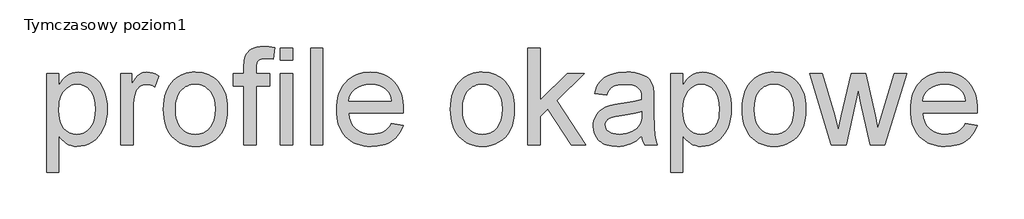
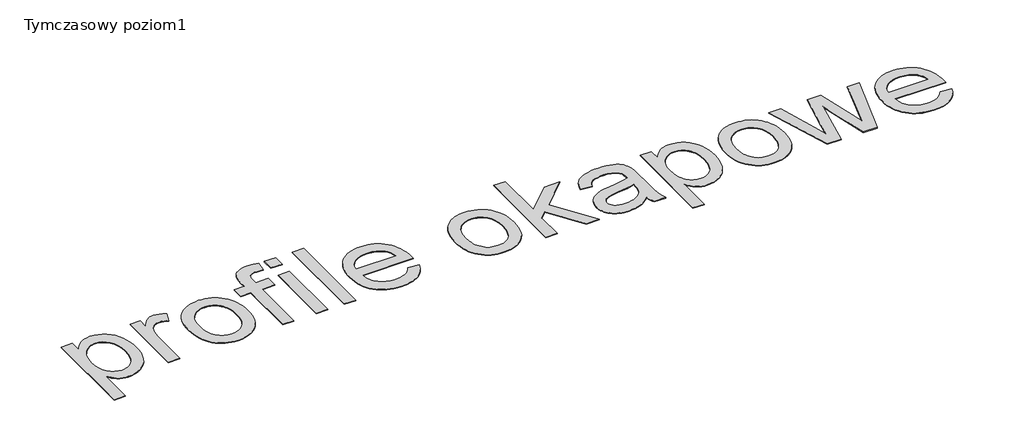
# One storey, part 3 of 4: 1 proxy.
"""IFC4 building model written with IfcOpenShell, lengths in millimetres."""

import ifcopenshell
import ifcopenshell.guid

model = None  # the IFC model being written
_history = None  # IfcOwnerHistory: only IFC2X3 demands one
_inside = {}  # id of a spatial element -> (the spatial element, [elements in it])
_under = {}  # id of a project, library or spatial element -> (it, [spatial elements below it])
_declared = {}  # id of a project -> (the project, [libraries it declares])
_typed = {}  # id of a type object -> (the type object, [elements of that type])
_made_of = {}  # id of a material, layer set ... -> (it, [elements and type objects made of it])


def new_model(schema):
    """Start an empty IFC model of exactly this schema.

    Asked for "IFC4X3", IfcOpenShell would pick the latest addendum, in which some entities
    have other attributes; the version numbers below select the first issue.
    IFC2X3 requires an IfcOwnerHistory on every rooted entity: one is made here for all.
    """
    global model, _history
    if schema == "IFC4X3":
        model = ifcopenshell.file(schema_version=(4, 3, 0, 0))
    else:
        model = ifcopenshell.file(schema=schema)
    _inside.clear()
    _under.clear()
    _declared.clear()
    _typed.clear()
    _made_of.clear()
    _history = None
    if model.schema == "IFC2X3":
        org = make("IfcOrganization", Name="unknown")
        user = make(
            "IfcPersonAndOrganization",
            ThePerson=make("IfcPerson", FamilyName="unknown"),
            TheOrganization=org,
        )
        app = make(
            "IfcApplication",
            ApplicationDeveloper=org,
            Version="unknown",
            ApplicationFullName="unknown",
            ApplicationIdentifier="unknown",
        )
        _history = make(
            "IfcOwnerHistory",
            OwningUser=user,
            OwningApplication=app,
            ChangeAction="ADDED",
            CreationDate=0,
        )
    return model


def make(cls, **values):
    """One entity of the class cls with the attributes given. An attribute that is None is left unset."""
    return model.create_entity(
        cls, **{name: value for name, value in values.items() if value is not None}
    )


def rooted(cls, **values):
    """An entity with a GlobalId (a new one), such as an element, a storey or a relation."""
    return make(cls, GlobalId=ifcopenshell.guid.new(), OwnerHistory=_history, **values)


def si_unit(unit_type, name, prefix=None):
    """IfcSIUnit, for example si_unit("LENGTHUNIT", "METRE", prefix="MILLI")."""
    return make("IfcSIUnit", UnitType=unit_type, Prefix=prefix, Name=name)


def assignment(units):
    """IfcUnitAssignment: the units of a project."""
    return None if units is None else make("IfcUnitAssignment", Units=units)


def point(xyz):
    """IfcCartesianPoint."""
    return None if xyz is None else make("IfcCartesianPoint", Coordinates=xyz)


def direction(xyz):
    """IfcDirection."""
    return None if xyz is None else make("IfcDirection", DirectionRatios=xyz)


def frame(location, z_axis=None, x_axis=None):
    """IfcAxis2Placement3D, a coordinate frame: its origin and axes. An axis left out is left unset."""
    return make(
        "IfcAxis2Placement3D",
        Location=point(location),
        Axis=direction(z_axis),
        RefDirection=direction(x_axis),
    )


def origin():
    """The frame at (0, 0, 0) with its axes left unset."""
    return frame((0.0, 0.0, 0.0))


def origin_with_axes():
    """The frame at (0, 0, 0) with the z axis (0, 0, 1) and the x axis (1, 0, 0) written out."""
    return frame((0.0, 0.0, 0.0), z_axis=(0.0, 0.0, 1.0), x_axis=(1.0, 0.0, 0.0))


def place(relative_to, where):
    """IfcLocalPlacement: puts the frame where relative to a parent placement (None: the world)."""
    return make(
        "IfcLocalPlacement", PlacementRelTo=relative_to, RelativePlacement=where
    )


def context(
    kind, dimensions, precision=None, world=None, true_north=None, identifier=None
):
    """IfcGeometricRepresentationContext, for example the 3D "Model" context."""
    return make(
        "IfcGeometricRepresentationContext",
        ContextIdentifier=identifier,
        ContextType=kind,
        CoordinateSpaceDimension=dimensions,
        Precision=precision,
        WorldCoordinateSystem=world,
        TrueNorth=true_north,
    )


def project(units=None, contexts=None):
    """IfcProject with its units and contexts."""
    return rooted(
        "IfcProject",
        Name="project",
        RepresentationContexts=contexts,
        UnitsInContext=assignment(units),
    )


def spatial(cls, under=None, at=None, **own):
    """A site, building, storey or space (cls), placed at a placement, below another one or the project."""
    s = rooted(cls, ObjectPlacement=at, **own)
    if under is not None:
        _under.setdefault(under.id(), (under, []))[1].append(s)
    return s


def polyline(points):
    """IfcPolyline through the points."""
    return make("IfcPolyline", Points=[point(p) for p in points])


def outline(outer, holes=None, kind="AREA"):
    """IfcArbitraryClosedProfileDef: a profile drawn as a closed curve; with holes, ...WithVoids."""
    if holes is None:
        return make("IfcArbitraryClosedProfileDef", ProfileType=kind, OuterCurve=outer)
    return make(
        "IfcArbitraryProfileDefWithVoids",
        ProfileType=kind,
        OuterCurve=outer,
        InnerCurves=holes,
    )


def extrude(swept, where, along, depth):
    """IfcExtrudedAreaSolid: the profile swept, set in the frame where, extruded along a direction by depth."""
    return make(
        "IfcExtrudedAreaSolid",
        SweptArea=swept,
        Position=where,
        ExtrudedDirection=direction(along),
        Depth=depth,
    )


def shape(context_of_items, identifier, shape_type, items):
    """IfcShapeRepresentation: the items that make up one representation, for example the "Body"."""
    return make(
        "IfcShapeRepresentation",
        ContextOfItems=context_of_items,
        RepresentationIdentifier=identifier,
        RepresentationType=shape_type,
        Items=items,
    )


def made_of(thing, what):
    """Note that an element or type object is made of a material, layer set ...; save() writes the relation."""
    if what is not None:
        _made_of.setdefault(what.id(), (what, []))[1].append(thing)
    return thing


def element(
    cls,
    number,
    at=None,
    inside=None,
    cuts=None,
    type_object=None,
    material=None,
    context=None,
    identifier="Body",
    shape_type=None,
    held_by="IfcProductDefinitionShape",
    body=None,
    shapes=None,
    **own,
):
    """One element of the class cls, such as IfcWall. Its Tag is "e" and its number.

    at: its placement. inside: the storey or other place that contains it. cuts: it is an
    opening in that element (IfcRelVoidsElement). A single representation is given by context,
    identifier, shape_type and body (its items); several are given by shapes. held_by: the class
    of the entity that holds the representations. save() writes the other relations.
    """
    e = rooted(cls, Tag="e%d" % number, ObjectPlacement=at, **own)
    if body is not None:
        shapes = [shape(context, identifier, shape_type, body)]
    if shapes is not None:
        e.Representation = make(held_by, Representations=shapes)
    if inside is not None:
        _inside.setdefault(inside.id(), (inside, []))[1].append(e)
    if cuts is not None:
        rooted(
            "IfcRelVoidsElement", RelatingBuildingElement=cuts, RelatedOpeningElement=e
        )
    if type_object is not None:
        _typed.setdefault(type_object.id(), (type_object, []))[1].append(e)
    return made_of(e, material)


def aggregate(whole, parts):
    """IfcRelAggregates: a whole, such as a stair, and the parts it consists of."""
    return rooted("IfcRelAggregates", RelatingObject=whole, RelatedObjects=parts)


def save(model, path):
    """Write the relations noted so far, then the file.

    IfcRelAggregates (storeys below a building ...), IfcRelContainedInSpatialStructure (elements
    in a storey), IfcRelDefinesByType, IfcRelAssociatesMaterial and IfcRelDeclares: one each for
    every whole, place, type object, material and project.
    """
    for whole, parts in _under.values():
        aggregate(whole, parts)
    for where, things in _inside.values():
        rooted(
            "IfcRelContainedInSpatialStructure",
            RelatedElements=things,
            RelatingStructure=where,
        )
    for kind, things in _typed.values():
        rooted("IfcRelDefinesByType", RelatedObjects=things, RelatingType=kind)
    for what, things in _made_of.values():
        rooted("IfcRelAssociatesMaterial", RelatedObjects=things, RelatingMaterial=what)
    for by, libraries in _declared.values():
        rooted("IfcRelDeclares", RelatingContext=by, RelatedDefinitions=libraries)
    model.write(path)


model = new_model("IFC4")

# Units and contexts
model_context = context("Model", 3, world=origin())
ifc_project = project(units=[si_unit("LENGTHUNIT", "METRE", prefix="MILLI")], contexts=[model_context])

# Site, building, storey
site = spatial("IfcSite", under=ifc_project)
building = spatial("IfcBuilding", under=site)
storey = spatial("IfcBuildingStorey", under=building, Name="Tymczasowy poziom1", Elevation=0.0)

# Proxy
placement = place(None, origin())
element("IfcBuildingElementProxy", 1, Name="1500 mm Arial", ObjectType="1500 mm Arial", at=placement, inside=storey, context=model_context, shape_type="SweptSolid", body=[
    extrude(outline(polyline([(-114702.1836112, 53004.2543182), (-114702.1836112, 54534.6434182), (-114513.8280296, 54534.6434182), (-114513.8280296, 54349.9666566), (-114484.029588, 54398.7685025), (-114452.3917364, 54441.0634356), (-114418.9144749, 54476.851456), (-114383.5978033, 54506.1325635), (-114345.4300463, 54528.9067583), (-114303.3995284, 54545.1740403), (-114257.5062495, 54554.9344095), (-114207.7502096, 54558.1878659), (-114142.0602809, 54553.6353262), (-114080.3710688, 54539.9777071), (-114022.6825734, 54517.2150087), (-113968.9947948, 54485.3472308), (-113920.4803567, 54445.2021081), (-113878.311883, 54397.607375), (-113842.4893737, 54342.5630314), (-113813.0128288, 54280.0690775), (-113789.9972115, 54212.2638273), (-113773.5574848, 54141.2855948), (-113763.6936488, 54067.1343802), (-113760.4057035, 53989.8101833), (-113764.1190124, 53907.1402012), (-113775.2589391, 53828.7238547), (-113793.8254835, 53754.5611437), (-113819.8186457, 53684.6520683), (-113852.88204, 53620.8245422), (-113892.6592808, 53564.9064789), (-113939.1503679, 53516.8978785), (-113992.3553015, 53476.798741), (-114049.6644185, 53445.1723858), (-114108.4680562, 53422.582132), (-114168.7662145, 53409.0279797), (-114230.5588933, 53404.509929), (-114275.0151332, 53407.5334591), (-114317.149118, 53416.6040496), (-114356.9608476, 53431.7217003), (-114394.4503222, 53452.8864114), (-114429.1576892, 53478.67264), (-114460.6230961, 53507.6548434), (-114488.8465429, 53539.8330217), (-114513.8280296, 53575.2071748), (-114513.8280296, 53004.2543182), (-114702.1836112, 53004.2543182)]), holes=[polyline([(-114513.8280296, 53972.5197295), (-114508.7351633, 53881.7448472), (-114493.4565641, 53803.6618938), (-114481.9976148, 53769.3798903), (-114467.9922323, 53738.2708691), (-114451.4404166, 53710.3348301), (-114432.3421677, 53685.5717733), (-114389.4264337, 53645.0127833), (-114342.1650936, 53616.0420762), (-114290.5581475, 53598.6596519), (-114234.6055953, 53592.8655105), (-114177.8483012, 53598.8665856), (-114151.047523, 53606.3679294), (-114125.2986575, 53616.8698107), (-114076.956664, 53646.8751859), (-114032.8223209, 53688.8827113), (-114013.1205156, 53714.5367323), (-113996.0456177, 53743.4901949), (-113981.5976272, 53775.7430992), (-113969.776544, 53811.2954452), (-113960.5823682, 53850.1472327), (-113954.0150998, 53892.298462), (-113948.761285, 53986.4992454), (-113953.8886403, 54076.4923784), (-113969.2707063, 54154.4373762), (-113980.8072557, 54188.8918243), (-113994.9074828, 54220.3342385), (-114011.5713876, 54248.764619), (-114030.79897, 54274.1829656), (-114073.8181708, 54316.0295425), (-114120.8380883, 54345.9199546), (-114171.8587225, 54363.8542019), (-114226.8800734, 54369.8322843), (-114254.7097715, 54368.2429192), (-114281.7289796, 54363.4748236), (-114307.9376977, 54355.5279977), (-114333.3359257, 54344.4024414), (-114381.7009118, 54312.6151378), (-114426.8239378, 54268.1129127), (-114447.2155218, 54241.2431566), (-114464.888228, 54211.4935743), (-114479.8420562, 54178.8641658), (-114492.0770067, 54143.3549311), (-114501.5930792, 54104.96587), (-114508.3902739, 54063.6969828), (-114513.8280296, 53972.5197295)])]), origin_with_axes(), (0.0, 0.0, 1.0), 10.0),
    extrude(outline(polyline([(-113548.5056743, 53428.0543767), (-113548.5056743, 54534.6434182), (-113383.6945404, 54534.6434182), (-113383.6945404, 54370.9359303), (-113352.6544971, 54423.2671441), (-113322.8100702, 54465.8494851), (-113294.1612599, 54498.6829531), (-113266.708066, 54521.7675483), (-113239.2088868, 54537.7014373), (-113210.4221207, 54549.0827865), (-113180.3477676, 54555.911596), (-113148.9858275, 54558.1878659), (-113102.2648141, 54554.5550312), (-113055.1759187, 54543.6565271), (-113007.7191414, 54525.4923535), (-112959.894482, 54500.0625106), (-113022.8023032, 54331.2046748), (-113055.9116827, 54348.104254), (-113089.0210623, 54360.175382), (-113122.1304419, 54367.4180587), (-113155.2398214, 54369.8322843), (-113184.1070617, 54367.5100292), (-113211.4797814, 54360.543264), (-113237.3579805, 54348.9319885), (-113261.741659, 54332.6762028), (-113283.7111119, 54312.3047373), (-113302.3466343, 54288.3464224), (-113317.648226, 54260.801258), (-113329.6158871, 54229.6692442), (-113342.9746021, 54178.2577353), (-113352.5165413, 54124.4549936), (-113358.2417049, 54068.2610188), (-113360.1500927, 54009.6758111), (-113360.1500927, 53428.0543767), (-113548.5056743, 53428.0543767)])), origin_with_axes(), (0.0, 0.0, 1.0), 10.0),
    extrude(outline(polyline([(-112889.2611389, 53981.3488974), (-112886.7147057, 54055.4828676), (-112879.0754062, 54124.6619272), (-112866.3432403, 54188.8860761), (-112848.518208, 54248.1553144), (-112825.6003093, 54302.4696421), (-112797.5895442, 54351.8290592), (-112764.4859128, 54396.2335656), (-112726.2894151, 54435.6831615), (-112691.3291292, 54464.3952016), (-112654.5064407, 54489.2789696), (-112615.8213497, 54510.3344657), (-112575.273856, 54527.5616898), (-112532.8639598, 54540.9606418), (-112488.5916609, 54550.5313218), (-112442.4569595, 54556.2737299), (-112394.4598554, 54558.1878659), (-112341.2577959, 54555.8569885), (-112290.5446881, 54548.8643565), (-112242.3205319, 54537.2099699), (-112196.5853273, 54520.8938286), (-112153.3390743, 54499.9159326), (-112112.5817729, 54474.276282), (-112074.3134232, 54443.9748768), (-112038.5340251, 54409.0117168), (-112006.1575354, 54369.9386252), (-111978.0979111, 54327.307425), (-111954.355152, 54281.118116), (-111934.9292582, 54231.3706984), (-111919.8202297, 54178.0651721), (-111909.0280665, 54121.2015372), (-111902.5527685, 54060.7797935), (-111900.3943359, 53996.7999412), (-111904.2111116, 53895.9772819), (-111915.6614387, 53806.5129792), (-111934.7453172, 53728.4070331), (-111961.4627471, 53661.6594436), (-111995.4803353, 53604.0054372), (-112036.4646889, 53553.1802403), (-112084.4158077, 53509.1838529), (-112139.3336918, 53472.0162751), (-112199.080027, 53442.4822487), (-112261.5164994, 53421.3865155), (-112326.6431089, 53408.7290756), (-112394.4598554, 53404.509929), (-112448.5011457, 53406.8321841), (-112499.892536, 53413.7989494), (-112548.6340262, 53425.4102248), (-112594.7256165, 53441.6660105), (-112638.1673068, 53462.5663064), (-112678.9590971, 53488.1111124), (-112717.1009874, 53518.3004286), (-112752.5929777, 53553.134255), (-112784.624578, 53592.3366802), (-112812.3852982, 53635.6317925), (-112835.8751384, 53683.019592), (-112855.0940986, 53734.5000787), (-112870.0421788, 53790.0732526), (-112880.7193788, 53849.7391137), (-112887.1256989, 53913.4976619), (-112889.2611389, 53981.3488974)]), holes=[polyline([(-112700.9055574, 53981.7167794), (-112695.4563053, 53890.3555852), (-112688.6447403, 53849.2706389), (-112679.1085492, 53811.2494599), (-112666.8477321, 53776.2920481), (-112651.8622889, 53744.3984036), (-112634.1522197, 53715.5685263), (-112613.7175245, 53689.8024162), (-112591.2192413, 53667.082829), (-112567.3184079, 53647.39252), (-112542.0150244, 53630.7314893), (-112515.3090908, 53617.099737), (-112487.2006071, 53606.4972629), (-112457.6895733, 53598.9240671), (-112394.4598554, 53592.8655105), (-112331.5520342, 53598.9585561), (-112302.1674599, 53606.574863), (-112274.162443, 53617.2376927), (-112247.5369836, 53630.9470452), (-112222.2910817, 53647.7029204), (-112198.4247372, 53667.5053184), (-112175.9379503, 53690.3542392), (-112155.5032551, 53716.3244088), (-112137.7931859, 53745.4905533), (-112122.8077428, 53777.8526725), (-112110.5469256, 53813.4107666), (-112101.0107345, 53852.1648356), (-112094.1991695, 53894.1148793), (-112088.7499174, 53987.6028913), (-112094.2336584, 54076.0670149), (-112101.0883346, 54116.0138262), (-112110.6848814, 54153.1038039), (-112123.0232986, 54187.336948), (-112138.1035863, 54218.7132585), (-112155.9257446, 54247.2327354), (-112176.4897733, 54272.8953786), (-112223.0153493, 54315.3052749), (-112248.2698735, 54331.9663055), (-112274.8522217, 54345.5980579), (-112302.762394, 54356.200532), (-112332.0003904, 54363.7737277), (-112394.4598554, 54369.8322843), (-112457.6895733, 54363.7967203), (-112487.2006071, 54356.2522654), (-112515.3090908, 54345.6900284), (-112542.0150244, 54332.1100094), (-112567.3184079, 54315.5122085), (-112591.2192413, 54295.8966255), (-112613.7175245, 54273.2632606), (-112634.1522197, 54247.5833729), (-112651.8622889, 54218.8282216), (-112666.8477321, 54186.9978068), (-112679.1085492, 54152.0921284), (-112688.6447403, 54114.1111865), (-112695.4563053, 54073.054981), (-112700.9055574, 53981.7167794)])]), origin_with_axes(), (0.0, 0.0, 1.0), 10.0),
    extrude(outline(polyline([(-111641.4054113, 53428.0543767), (-111641.4054113, 54346.2878366), (-111806.2165451, 54346.2878366), (-111806.2165451, 54534.6434182), (-111641.4054113, 54534.6434182), (-111641.4054113, 54646.1116627), (-111636.4390043, 54738.358073), (-111630.2309957, 54774.2035749), (-111621.5397835, 54803.1972747), (-111605.1690348, 54836.1457058), (-111583.647938, 54865.8291843), (-111556.9764934, 54892.2477101), (-111525.1547008, 54915.4012832), (-111487.4927815, 54934.2322428), (-111443.3009569, 54947.6829283), (-111392.5792268, 54955.7533395), (-111335.3275913, 54958.4434766), (-111253.5658179, 54953.2931287), (-111163.5266995, 54937.8420849), (-111191.1178492, 54761.2587272), (-111246.943942, 54767.8806031), (-111299.6430378, 54770.0878951), (-111338.5120698, 54768.133522), (-111371.2420711, 54762.2704027), (-111397.8330415, 54752.4985372), (-111418.2849812, 54738.8179255), (-111433.4946024, 54719.8030249), (-111444.3586176, 54694.0282926), (-111450.8770267, 54661.4937286), (-111453.0498298, 54622.199333), (-111453.0498298, 54534.6434182), (-111241.1498005, 54534.6434182), (-111241.1498005, 54346.2878366), (-111453.0498298, 54346.2878366), (-111453.0498298, 53428.0543767), (-111641.4054113, 53428.0543767)])), origin_with_axes(), (0.0, 0.0, 1.0), 10.0),
    extrude(outline(polyline([(-111076.3386667, 53428.0543767), (-111076.3386667, 54534.6434182), (-110887.9830852, 54534.6434182), (-110887.9830852, 53428.0543767), (-111076.3386667, 53428.0543767)])), origin_with_axes(), (0.0, 0.0, 1.0), 10.0),
    extrude(outline(polyline([(-111076.3386667, 54746.5434474), (-111076.3386667, 54934.8990289), (-110887.9830852, 54934.8990289), (-110887.9830852, 54746.5434474), (-111076.3386667, 54746.5434474)])), origin_with_axes(), (0.0, 0.0, 1.0), 10.0),
    extrude(outline(polyline([(-110605.4497129, 53428.0543767), (-110605.4497129, 54934.8990289), (-110417.0941313, 54934.8990289), (-110417.0941313, 53428.0543767), (-110605.4497129, 53428.0543767)])), origin_with_axes(), (0.0, 0.0, 1.0), 10.0),
    extrude(outline(polyline([(-109359.8012772, 53757.6766444), (-109175.1245156, 53734.1321967), (-109203.4399329, 53660.164923), (-109221.3138246, 53626.4749797), (-109241.6651715, 53594.980832), (-109264.4939737, 53565.68248), (-109289.8002313, 53538.5799236), (-109317.5839442, 53513.6731629), (-109347.8451124, 53490.9621979), (-109380.4342838, 53470.6999473), (-109415.2020064, 53453.1393302), (-109452.1482802, 53438.2803465), (-109491.2731052, 53426.1229962), (-109576.0584088, 53409.9131958), (-109669.5579171, 53404.509929), (-109729.5859121, 53406.8408063), (-109786.4294285, 53413.8334383), (-109840.0884664, 53425.4878249), (-109890.5630257, 53441.8039663), (-109937.8531066, 53462.7818622), (-109981.9587089, 53488.4215128), (-110022.8798327, 53518.7229181), (-110060.616478, 53553.686078), (-110094.5018587, 53592.8568883), (-110123.8691886, 53635.7812445), (-110148.7184677, 53682.4591467), (-110169.0496961, 53732.8905949), (-110184.8628737, 53787.0755891), (-110196.1580006, 53845.0141293), (-110202.9350767, 53906.7062154), (-110205.1941021, 53972.1518475), (-110202.9120841, 54039.8248902), (-110196.0660301, 54103.6006829), (-110184.6559401, 54163.4792258), (-110168.6818141, 54219.4605188), (-110148.1436521, 54271.5445619), (-110123.0414541, 54319.7313551), (-110093.37522, 54364.0208984), (-110059.14495, 54404.4131919), (-110021.2760971, 54440.4541311), (-109980.6941146, 54471.6896117), (-109937.3990022, 54498.1196338), (-109891.3907602, 54519.7441974), (-109842.6693885, 54536.5633023), (-109791.234887, 54548.5769487), (-109737.0872559, 54555.7851366), (-109680.226495, 54558.1878659), (-109625.2252626, 54555.7908847), (-109572.7934561, 54548.5999414), (-109522.9310754, 54536.6150357), (-109475.6381204, 54519.8361679), (-109430.9145913, 54498.2633377), (-109388.760488, 54471.8965454), (-109349.1758105, 54440.7357907), (-109312.1605588, 54404.7810739), (-109278.6631787, 54364.4807509), (-109249.632116, 54320.2831781), (-109225.0673705, 54272.1883554), (-109204.9689425, 54220.1962828), (-109189.3368318, 54164.3069603), (-109178.1710384, 54104.5203879), (-109171.4715624, 54040.8365657), (-109169.2384037, 53973.2554935), (-109170.3420497, 53922.4877782), (-110016.8385206, 53922.4877782), (-110005.9285202, 53847.3248881), (-109996.4296921, 53813.2440701), (-109984.2349788, 53781.4970035), (-109969.3443802, 53752.0836884), (-109951.7578964, 53725.0041247), (-109931.4755273, 53700.2583123), (-109908.497273, 53677.8462514), (-109856.8443416, 53640.6671773), (-109799.1903352, 53614.1106957), (-109735.5352537, 53598.1768068), (-109665.8790972, 53592.8655105), (-109613.7778096, 53595.3257214), (-109565.6312535, 53602.7063539), (-109521.4394288, 53615.0074081), (-109481.2023356, 53632.228884), (-109444.9199738, 53654.8306341), (-109412.5923435, 53683.2725108), (-109384.2194446, 53717.5545143), (-109359.8012772, 53757.6766444)]), holes=[polyline([(-110016.8385206, 54110.8433597), (-109357.5939852, 54110.8433597), (-109367.2738802, 54164.1402638), (-109383.0698134, 54210.3554394), (-109404.9817847, 54249.4888867), (-109433.0097942, 54281.5406055), (-109457.80734, 54302.2339677), (-109484.3753178, 54320.168215), (-109512.7137278, 54335.3433473), (-109542.8225698, 54347.7593646), (-109608.3515502, 54364.3140544), (-109680.962259, 54369.8322843), (-109747.1925144, 54365.4291967), (-109807.9275326, 54352.2199338), (-109863.1673134, 54330.2044957), (-109912.9118569, 54299.3828823), (-109954.6549671, 54261.1806363), (-109985.8904477, 54217.0233006), (-110006.6182989, 54166.9108751), (-110016.8385206, 54110.8433597)])]), origin_with_axes(), (0.0, 0.0, 1.0), 10.0),
    extrude(outline(polyline([(-108439.3605253, 53981.3488974), (-108436.8140921, 54055.4828676), (-108429.1747925, 54124.6619272), (-108416.4426266, 54188.8860761), (-108398.6175943, 54248.1553144), (-108375.6996956, 54302.4696421), (-108347.6889306, 54351.8290592), (-108314.5852992, 54396.2335656), (-108276.3888014, 54435.6831615), (-108241.4285155, 54464.3952016), (-108204.6058271, 54489.2789696), (-108165.920736, 54510.3344657), (-108125.3732424, 54527.5616898), (-108082.9633461, 54540.9606418), (-108038.6910473, 54550.5313218), (-107992.5563458, 54556.2737299), (-107944.5592417, 54558.1878659), (-107891.3571823, 54555.8569885), (-107840.6440744, 54548.8643565), (-107792.4199182, 54537.2099699), (-107746.6847136, 54520.8938286), (-107703.4384606, 54499.9159326), (-107662.6811593, 54474.276282), (-107624.4128095, 54443.9748768), (-107588.6334114, 54409.0117168), (-107556.2569218, 54369.9386252), (-107528.1972974, 54327.307425), (-107504.4545383, 54281.118116), (-107485.0286445, 54231.3706984), (-107469.919616, 54178.0651721), (-107459.1274528, 54121.2015372), (-107452.6521549, 54060.7797935), (-107450.4937222, 53996.7999412), (-107454.3104979, 53895.9772819), (-107465.760825, 53806.5129792), (-107484.8447035, 53728.4070331), (-107511.5621334, 53661.6594436), (-107545.5797217, 53604.0054372), (-107586.5640752, 53553.1802403), (-107634.515194, 53509.1838529), (-107689.4330781, 53472.0162751), (-107749.1794134, 53442.4822487), (-107811.6158857, 53421.3865155), (-107876.7424952, 53408.7290756), (-107944.5592417, 53404.509929), (-107998.600532, 53406.8321841), (-108049.9919223, 53413.7989494), (-108098.7334126, 53425.4102248), (-108144.8250029, 53441.6660105), (-108188.2666932, 53462.5663064), (-108229.0584835, 53488.1111124), (-108267.2003738, 53518.3004286), (-108302.6923641, 53553.134255), (-108334.7239643, 53592.3366802), (-108362.4846846, 53635.6317925), (-108385.9745248, 53683.019592), (-108405.193485, 53734.5000787), (-108420.1415651, 53790.0732526), (-108430.8187652, 53849.7391137), (-108437.2250852, 53913.4976619), (-108439.3605253, 53981.3488974)]), holes=[polyline([(-108251.0049437, 53981.7167794), (-108245.5556917, 53890.3555852), (-108238.7441266, 53849.2706389), (-108229.2079355, 53811.2494599), (-108216.9471184, 53776.2920481), (-108201.9616752, 53744.3984036), (-108184.2516061, 53715.5685263), (-108163.8169109, 53689.8024162), (-108141.3186276, 53667.082829), (-108117.4177942, 53647.39252), (-108092.1144108, 53630.7314893), (-108065.4084772, 53617.099737), (-108037.2999935, 53606.4972629), (-108007.7889597, 53598.9240671), (-107944.5592417, 53592.8655105), (-107881.6514206, 53598.9585561), (-107852.2668462, 53606.574863), (-107824.2618293, 53617.2376927), (-107797.6363699, 53630.9470452), (-107772.390468, 53647.7029204), (-107748.5241236, 53667.5053184), (-107726.0373366, 53690.3542392), (-107705.6026414, 53716.3244088), (-107687.8925722, 53745.4905533), (-107672.9071291, 53777.8526725), (-107660.646312, 53813.4107666), (-107651.1101209, 53852.1648356), (-107644.2985558, 53894.1148793), (-107638.8493038, 53987.6028913), (-107644.3330447, 54076.0670149), (-107651.187721, 54116.0138262), (-107660.7842677, 54153.1038039), (-107673.1226849, 54187.336948), (-107688.2029727, 54218.7132585), (-107706.0251309, 54247.2327354), (-107726.5891596, 54272.8953786), (-107773.1147357, 54315.3052749), (-107798.3692598, 54331.9663055), (-107824.9516081, 54345.5980579), (-107852.8617804, 54356.200532), (-107882.0997768, 54363.7737277), (-107944.5592417, 54369.8322843), (-108007.7889597, 54363.7967203), (-108037.2999935, 54356.2522654), (-108065.4084772, 54345.6900284), (-108092.1144108, 54332.1100094), (-108117.4177942, 54315.5122085), (-108141.3186276, 54295.8966255), (-108163.8169109, 54273.2632606), (-108184.2516061, 54247.5833729), (-108201.9616752, 54218.8282216), (-108216.9471184, 54186.9978068), (-108229.2079355, 54152.0921284), (-108238.7441266, 54114.1111865), (-108245.5556917, 54073.054981), (-108251.0049437, 53981.7167794)])]), origin_with_axes(), (0.0, 0.0, 1.0), 10.0),
    extrude(outline(polyline([(-107238.593693, 53428.0543767), (-107238.593693, 54934.8990289), (-107050.2381115, 54934.8990289), (-107050.2381115, 54125.1907575), (-106627.909581, 54534.6434182), (-106367.4491284, 54534.6434182), (-106794.9280068, 54120.0404096), (-106343.9046807, 53428.0543767), (-106563.8981139, 53428.0543767), (-106929.9406991, 53989.0744193), (-107050.2381115, 53872.4558269), (-107050.2381115, 53428.0543767), (-107238.593693, 53428.0543767)])), origin_with_axes(), (0.0, 0.0, 1.0), 10.0),
    extrude(outline(polyline([(-105472.7601162, 53569.3210628), (-105517.4232896, 53527.405508), (-105562.7532492, 53492.1578143), (-105608.7499949, 53463.5779818), (-105655.4135268, 53441.6660105), (-105703.2726751, 53425.4102248), (-105752.8562702, 53413.7989494), (-105804.1643122, 53406.8321841), (-105857.1968011, 53404.509929), (-105941.0623997, 53410.0971368), (-105979.1238158, 53417.0811465), (-106014.6043098, 53426.8587602), (-106047.5038817, 53439.4299778), (-106077.8225314, 53454.7947992), (-106105.560259, 53472.9532246), (-106130.7170645, 53493.9052538), (-106153.0917624, 53517.0300861), (-106172.4831673, 53541.7069206), (-106188.8912791, 53567.9357572), (-106202.3160978, 53595.716596), (-106212.7576235, 53625.0494369), (-106220.2158562, 53655.9342801), (-106226.1824423, 53722.3599728), (-106223.9291651, 53762.2981619), (-106217.1693334, 53800.4429263), (-106205.9029473, 53836.7942659), (-106190.1300068, 53871.3521809), (-106170.6897426, 53903.3579144), (-106148.4213855, 53932.0527101), (-106123.3249357, 53957.4365677), (-106095.400393, 53979.5094875), (-106033.0903801, 54015.377982), (-105963.5146977, 54041.3136626), (-105895.7324401, 54055.753031), (-105800.5429739, 54069.6405763), (-105696.938207, 54083.8960036), (-105607.9567494, 54099.4390179), (-105533.5986011, 54116.2696192), (-105473.8637621, 54134.3878074), (-105472.7601162, 54176.3263549), (-105476.0020762, 54221.9897075), (-105485.7279565, 54260.3873908), (-105501.9377569, 54291.5194046), (-105524.6314775, 54315.385749), (-105563.8568952, 54339.2061082), (-105611.6355693, 54356.2206505), (-105667.9674998, 54366.4293759), (-105732.8526867, 54369.8322843), (-105793.185334, 54367.5675108), (-105845.0566953, 54360.7731902), (-105888.4667707, 54349.4493225), (-105923.4155602, 54333.5959078), (-105952.1333485, 54311.9713443), (-105976.85042, 54283.3340302), (-105997.5667749, 54247.6839656), (-106014.2824131, 54205.0211505), (-106202.6379946, 54228.5655982), (-106188.3020931, 54282.8281925), (-106169.9424823, 54331.5725568), (-106147.5591621, 54374.7986913), (-106121.1521327, 54412.5065958), (-106089.5832589, 54445.455027), (-106051.7144061, 54474.4027415), (-106007.545574, 54499.3497393), (-105957.0767628, 54520.2960204), (-105901.3311442, 54536.8737028), (-105841.3318901, 54548.7149045), (-105777.0790004, 54555.8196255), (-105708.5724751, 54558.1878659), (-105641.6064556, 54556.095537), (-105581.2393195, 54549.8185505), (-105527.4710666, 54539.3569062), (-105480.3016971, 54524.7106043), (-105439.3403362, 54506.9028165), (-105404.1961093, 54486.9567145), (-105374.8690165, 54464.8722985), (-105351.3590577, 54440.6495684), (-105332.2981719, 54413.6907159), (-105316.3182977, 54383.3979329), (-105303.4194353, 54349.7712193), (-105293.6015845, 54312.8105751), (-105286.7037971, 54247.6954619), (-105284.4045346, 54147.9994412), (-105284.4045346, 53913.6586103), (-105282.0133017, 53709.5300882), (-105274.8396028, 53586.4275756), (-105260.6761459, 53505.5395219), (-105237.3156392, 53428.0543767), (-105425.6712208, 53428.0543767), (-105442.4098516, 53459.5082873), (-105455.8375444, 53493.5373718), (-105465.9542992, 53530.1416303), (-105472.7601162, 53569.3210628)]), holes=[polyline([(-105472.7601162, 53946.0322259), (-105529.6898549, 53929.730455), (-105599.3115225, 53914.6702858), (-105776.6306442, 53888.2747526), (-105874.3492991, 53873.8353843), (-105938.682663, 53857.740547), (-105980.8511367, 53836.8632438), (-105997.8311901, 53823.4585436), (-106012.0751211, 53808.0764777), (-106023.3415072, 53791.268869), (-106031.3889258, 53773.5875407), (-106036.217377, 53755.0324925), (-106037.8268607, 53735.6037246), (-106034.3204855, 53706.3341134), (-106023.8013597, 53679.5936909), (-106006.2694833, 53655.3824571), (-105981.7248565, 53633.700412), (-105950.3974053, 53615.8351426), (-105912.5170561, 53603.0742359), (-105868.0838089, 53595.4176919), (-105817.0976636, 53592.8655105), (-105765.0423613, 53595.682107), (-105715.930115, 53604.1318966), (-105669.7609246, 53618.2148792), (-105626.5347901, 53637.9310549), (-105587.5392987, 53661.6479473), (-105554.0620371, 53687.73308), (-105526.1030055, 53716.1864531), (-105503.6622038, 53747.0080665), (-105490.6253855, 53774.5992161), (-105481.3133725, 53808.0764777), (-105475.7261647, 53847.4398512), (-105473.8637621, 53892.6893366), (-105472.7601162, 53946.0322259)])]), origin_with_axes(), (0.0, 0.0, 1.0), 10.0),
    extrude(outline(polyline([(-105025.41561, 53004.2543182), (-105025.41561, 54534.6434182), (-104837.0600285, 54534.6434182), (-104837.0600285, 54349.9666566), (-104807.2615869, 54398.7685025), (-104775.6237353, 54441.0634356), (-104742.1464737, 54476.851456), (-104706.8298022, 54506.1325635), (-104668.6620452, 54528.9067583), (-104626.6315273, 54545.1740403), (-104580.7382484, 54554.9344095), (-104530.9822085, 54558.1878659), (-104465.2922797, 54553.6353262), (-104403.6030677, 54539.9777071), (-104345.9145723, 54517.2150087), (-104292.2267936, 54485.3472308), (-104243.7123555, 54445.2021081), (-104201.5438818, 54397.607375), (-104165.7213725, 54342.5630314), (-104136.2448277, 54280.0690775), (-104113.2292104, 54212.2638273), (-104096.7894837, 54141.2855948), (-104086.9256477, 54067.1343802), (-104083.6377024, 53989.8101833), (-104087.3510113, 53907.1402012), (-104098.4909379, 53828.7238547), (-104117.0574824, 53754.5611437), (-104143.0506446, 53684.6520683), (-104176.1140389, 53620.8245422), (-104215.8912796, 53564.9064789), (-104262.3823668, 53516.8978785), (-104315.5873003, 53476.798741), (-104372.8964174, 53445.1723858), (-104431.7000551, 53422.582132), (-104491.9982133, 53409.0279797), (-104553.7908922, 53404.509929), (-104598.2471321, 53407.5334591), (-104640.3811168, 53416.6040496), (-104680.1928465, 53431.7217003), (-104717.6823211, 53452.8864114), (-104752.389688, 53478.67264), (-104783.8550949, 53507.6548434), (-104812.0785418, 53539.8330217), (-104837.0600285, 53575.2071748), (-104837.0600285, 53004.2543182), (-105025.41561, 53004.2543182)]), holes=[polyline([(-104837.0600285, 53972.5197295), (-104831.9671621, 53881.7448472), (-104816.688563, 53803.6618938), (-104805.2296137, 53769.3798903), (-104791.2242312, 53738.2708691), (-104774.6724154, 53710.3348301), (-104755.5741666, 53685.5717733), (-104712.6584326, 53645.0127833), (-104665.3970925, 53616.0420762), (-104613.7901464, 53598.6596519), (-104557.8375942, 53592.8655105), (-104501.0803001, 53598.8665856), (-104474.2795219, 53606.3679294), (-104448.5306563, 53616.8698107), (-104400.1886629, 53646.8751859), (-104356.0543198, 53688.8827113), (-104336.3525145, 53714.5367323), (-104319.2776166, 53743.4901949), (-104304.829626, 53775.7430992), (-104293.0085429, 53811.2954452), (-104283.8143671, 53850.1472327), (-104277.2470986, 53892.298462), (-104271.9932839, 53986.4992454), (-104277.1206392, 54076.4923784), (-104292.5027051, 54154.4373762), (-104304.0392546, 54188.8918243), (-104318.1394817, 54220.3342385), (-104334.8033864, 54248.764619), (-104354.0309688, 54274.1829656), (-104397.0501696, 54316.0295425), (-104444.0700871, 54345.9199546), (-104495.0907213, 54363.8542019), (-104550.1120723, 54369.8322843), (-104577.9417704, 54368.2429192), (-104604.9609785, 54363.4748236), (-104631.1696966, 54355.5279977), (-104656.5679246, 54344.4024414), (-104704.9329107, 54312.6151378), (-104750.0559366, 54268.1129127), (-104770.4475207, 54241.2431566), (-104788.1202268, 54211.4935743), (-104803.0740551, 54178.8641658), (-104815.3090055, 54143.3549311), (-104824.8250781, 54104.96587), (-104831.6222728, 54063.6969828), (-104837.0600285, 53972.5197295)])]), origin_with_axes(), (0.0, 0.0, 1.0), 10.0),
    extrude(outline(polyline([(-103918.8265685, 53981.3488974), (-103916.2801353, 54055.4828676), (-103908.6408358, 54124.6619272), (-103895.9086699, 54188.8860761), (-103878.0836376, 54248.1553144), (-103855.1657389, 54302.4696421), (-103827.1549739, 54351.8290592), (-103794.0513424, 54396.2335656), (-103755.8548447, 54435.6831615), (-103720.8945588, 54464.3952016), (-103684.0718704, 54489.2789696), (-103645.3867793, 54510.3344657), (-103604.8392856, 54527.5616898), (-103562.4293894, 54540.9606418), (-103518.1570905, 54550.5313218), (-103472.0223891, 54556.2737299), (-103424.025285, 54558.1878659), (-103370.8232255, 54555.8569885), (-103320.1101177, 54548.8643565), (-103271.8859615, 54537.2099699), (-103226.1507569, 54520.8938286), (-103182.9045039, 54499.9159326), (-103142.1472025, 54474.276282), (-103103.8788528, 54443.9748768), (-103068.0994547, 54409.0117168), (-103035.722965, 54369.9386252), (-103007.6633407, 54327.307425), (-102983.9205816, 54281.118116), (-102964.4946878, 54231.3706984), (-102949.3856593, 54178.0651721), (-102938.5934961, 54121.2015372), (-102932.1181981, 54060.7797935), (-102929.9597655, 53996.7999412), (-102933.7765412, 53895.9772819), (-102945.2268683, 53806.5129792), (-102964.3107468, 53728.4070331), (-102991.0281767, 53661.6594436), (-103025.0457649, 53604.0054372), (-103066.0301185, 53553.1802403), (-103113.9812373, 53509.1838529), (-103168.8991214, 53472.0162751), (-103228.6454566, 53442.4822487), (-103291.081929, 53421.3865155), (-103356.2085385, 53408.7290756), (-103424.025285, 53404.509929), (-103478.0665753, 53406.8321841), (-103529.4579656, 53413.7989494), (-103578.1994559, 53425.4102248), (-103624.2910461, 53441.6660105), (-103667.7327364, 53462.5663064), (-103708.5245267, 53488.1111124), (-103746.666417, 53518.3004286), (-103782.1584073, 53553.134255), (-103814.1900076, 53592.3366802), (-103841.9507279, 53635.6317925), (-103865.4405681, 53683.019592), (-103884.6595282, 53734.5000787), (-103899.6076084, 53790.0732526), (-103910.2848085, 53849.7391137), (-103916.6911285, 53913.4976619), (-103918.8265685, 53981.3488974)]), holes=[polyline([(-103730.470987, 53981.7167794), (-103725.0217349, 53890.3555852), (-103718.2101699, 53849.2706389), (-103708.6739788, 53811.2494599), (-103696.4131617, 53776.2920481), (-103681.4277185, 53744.3984036), (-103663.7176493, 53715.5685263), (-103643.2829541, 53689.8024162), (-103620.7846709, 53667.082829), (-103596.8838375, 53647.39252), (-103571.580454, 53630.7314893), (-103544.8745204, 53617.099737), (-103516.7660367, 53606.4972629), (-103487.2550029, 53598.9240671), (-103424.025285, 53592.8655105), (-103361.1174638, 53598.9585561), (-103331.7328895, 53606.574863), (-103303.7278726, 53617.2376927), (-103277.1024132, 53630.9470452), (-103251.8565113, 53647.7029204), (-103227.9901668, 53667.5053184), (-103205.5033799, 53690.3542392), (-103185.0686847, 53716.3244088), (-103167.3586155, 53745.4905533), (-103152.3731724, 53777.8526725), (-103140.1123552, 53813.4107666), (-103130.5761641, 53852.1648356), (-103123.7645991, 53894.1148793), (-103118.315347, 53987.6028913), (-103123.799088, 54076.0670149), (-103130.6537643, 54116.0138262), (-103140.250311, 54153.1038039), (-103152.5887282, 54187.336948), (-103167.6690159, 54218.7132585), (-103185.4911742, 54247.2327354), (-103206.0552029, 54272.8953786), (-103252.580779, 54315.3052749), (-103277.8353031, 54331.9663055), (-103304.4176513, 54345.5980579), (-103332.3278236, 54356.200532), (-103361.56582, 54363.7737277), (-103424.025285, 54369.8322843), (-103487.2550029, 54363.7967203), (-103516.7660367, 54356.2522654), (-103544.8745204, 54345.6900284), (-103571.580454, 54332.1100094), (-103596.8838375, 54315.5122085), (-103620.7846709, 54295.8966255), (-103643.2829541, 54273.2632606), (-103663.7176493, 54247.5833729), (-103681.4277185, 54218.8282216), (-103696.4131617, 54186.9978068), (-103708.6739788, 54152.0921284), (-103718.2101699, 54114.1111865), (-103725.0217349, 54073.054981), (-103730.470987, 53981.7167794)])]), origin_with_axes(), (0.0, 0.0, 1.0), 10.0),
    extrude(outline(polyline([(-102534.4866207, 53428.0543767), (-102871.0986463, 54534.6434182), (-102675.3854248, 54534.6434182), (-102484.4546693, 53889.0105166), (-102427.4329601, 53658.3485057), (-102380.7119467, 53880.5492307), (-102228.7766827, 54534.6434182), (-102004.3686656, 54534.6434182), (-101853.1691656, 53882.3886407), (-101811.5985002, 53681.1571894), (-101752.0016169, 53893.4251006), (-101560.7029794, 54534.6434182), (-101364.253994, 54534.6434182), (-101703.4411936, 53428.0543767), (-101931.1601486, 53428.0543767), (-102075.7377727, 54076.9982162), (-102117.6763201, 54279.3333135), (-102304.1924917, 53428.0543767), (-102534.4866207, 53428.0543767)])), origin_with_axes(), (0.0, 0.0, 1.0), 10.0),
    extrude(outline(polyline([(-100460.0000499, 53757.6766444), (-100275.3232883, 53734.1321967), (-100303.6387056, 53660.164923), (-100321.5125972, 53626.4749797), (-100341.8639442, 53594.980832), (-100364.6927464, 53565.68248), (-100389.999004, 53538.5799236), (-100417.7827169, 53513.6731629), (-100448.043885, 53490.9621979), (-100480.6330565, 53470.6999473), (-100515.4007791, 53453.1393302), (-100552.3470529, 53438.2803465), (-100591.4718779, 53426.1229962), (-100676.2571815, 53409.9131958), (-100769.7566898, 53404.509929), (-100829.7846847, 53406.8408063), (-100886.6282012, 53413.8334383), (-100940.287239, 53425.4878249), (-100990.7617984, 53441.8039663), (-101038.0518793, 53462.7818622), (-101082.1574816, 53488.4215128), (-101123.0786054, 53518.7229181), (-101160.8152507, 53553.686078), (-101194.7006313, 53592.8568883), (-101224.0679612, 53635.7812445), (-101248.9172404, 53682.4591467), (-101269.2484688, 53732.8905949), (-101285.0616464, 53787.0755891), (-101296.3567733, 53845.0141293), (-101303.1338494, 53906.7062154), (-101305.3928748, 53972.1518475), (-101303.1108568, 54039.8248902), (-101296.2648028, 54103.6006829), (-101284.8547128, 54163.4792258), (-101268.8805868, 54219.4605188), (-101248.3424248, 54271.5445619), (-101223.2402267, 54319.7313551), (-101193.5739927, 54364.0208984), (-101159.3437227, 54404.4131919), (-101121.4748698, 54440.4541311), (-101080.8928872, 54471.6896117), (-101037.5977749, 54498.1196338), (-100991.5895329, 54519.7441974), (-100942.8681612, 54536.5633023), (-100891.4336597, 54548.5769487), (-100837.2860286, 54555.7851366), (-100780.4252677, 54558.1878659), (-100725.4240353, 54555.7908847), (-100672.9922288, 54548.5999414), (-100623.129848, 54536.6150357), (-100575.8368931, 54519.8361679), (-100531.113364, 54498.2633377), (-100488.9592607, 54471.8965454), (-100449.3745832, 54440.7357907), (-100412.3593315, 54404.7810739), (-100378.8619514, 54364.4807509), (-100349.8308886, 54320.2831781), (-100325.2661432, 54272.1883554), (-100305.1677152, 54220.1962828), (-100289.5356044, 54164.3069603), (-100278.3698111, 54104.5203879), (-100271.6703351, 54040.8365657), (-100269.4371764, 53973.2554935), (-100270.5408224, 53922.4877782), (-101117.0372933, 53922.4877782), (-101106.1272928, 53847.3248881), (-101096.6284648, 53813.2440701), (-101084.4337514, 53781.4970035), (-101069.5431529, 53752.0836884), (-101051.9566691, 53725.0041247), (-101031.6743, 53700.2583123), (-101008.6960457, 53677.8462514), (-100957.0431143, 53640.6671773), (-100899.3891079, 53614.1106957), (-100835.7340264, 53598.1768068), (-100766.0778699, 53592.8655105), (-100713.9765823, 53595.3257214), (-100665.8300262, 53602.7063539), (-100621.6382015, 53615.0074081), (-100581.4011083, 53632.228884), (-100545.1187465, 53654.8306341), (-100512.7911162, 53683.2725108), (-100484.4182173, 53717.5545143), (-100460.0000499, 53757.6766444)]), holes=[polyline([(-101117.0372933, 54110.8433597), (-100457.7927579, 54110.8433597), (-100467.4726529, 54164.1402638), (-100483.2685861, 54210.3554394), (-100505.1805574, 54249.4888867), (-100533.2085669, 54281.5406055), (-100558.0061127, 54302.2339677), (-100584.5740905, 54320.168215), (-100612.9125004, 54335.3433473), (-100643.0213425, 54347.7593646), (-100708.5503229, 54364.3140544), (-100781.1610317, 54369.8322843), (-100847.3912871, 54365.4291967), (-100908.1263053, 54352.2199338), (-100963.3660861, 54330.2044957), (-101013.1106296, 54299.3828823), (-101054.8537398, 54261.1806363), (-101086.0892204, 54217.0233006), (-101106.8170716, 54166.9108751), (-101117.0372933, 54110.8433597)])]), origin_with_axes(), (0.0, 0.0, 1.0), 10.0),
])

save(model, "model.ifc")
